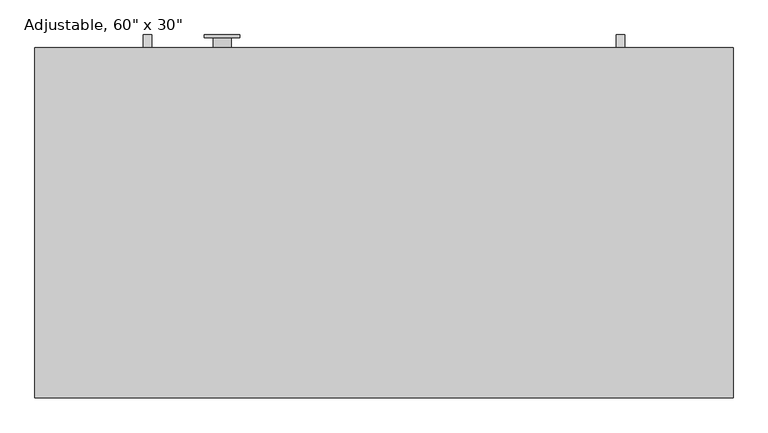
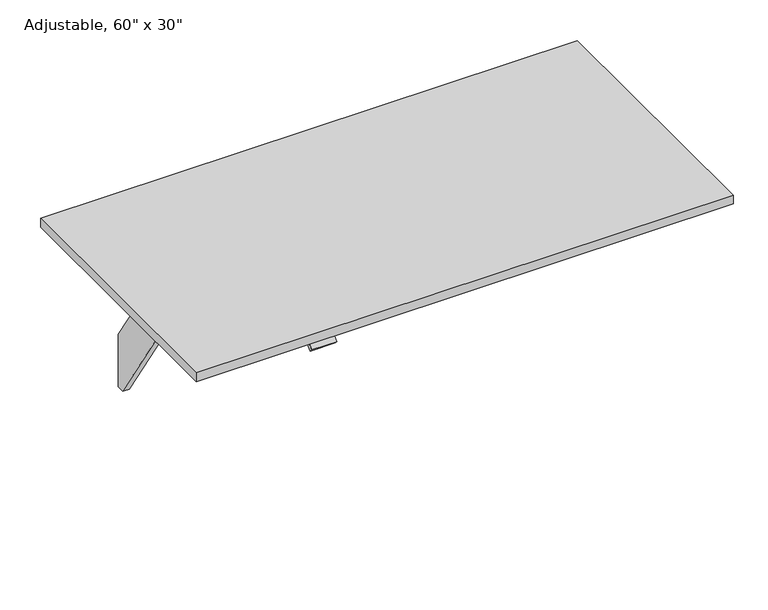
"""IFC4 building model written with IfcOpenShell, lengths in millimetres: furniture geometry."""

from ifc_helpers import new_model, si_unit, point, frame, frame_2d, origin, place, context, project, spatial, polyline, circle_curve, trimmed, segment, composite_curve, outline, extrude, source, transform, mapped, element, save
from ifc_brep_helpers import plane_surface, cylinder_surface, revolved_surface, advanced_brep


def furniture_abd386d2(model_context):
    return source(origin(), model_context, "Body", "SolidModel", [
        extrude(outline(polyline([(29.2199219, 153.5921541), (8.6276198, 153.5921541), (-345.3046137, 698.6), (-477.3090911, 698.6), (-485.7513898, 711.6), (-85.1019822, 711.6), (-93.5442809, 698.6), (-226.0682844, 698.6), (29.2199219, 305.4906355), (29.2199219, 153.5921541)])), frame((369.1244025, 0.0, 0.0), z_axis=(1.0, 0.0, 0.0), x_axis=(0.0, 1.0, 0.0)), (0.0, 0.0, 1.0), 18.0),
        extrude(outline(composite_curve([segment(polyline([(-733.1055966, 691.708916), (-717.7537239, 704.5906666)]), True, "CONTINUOUS"), segment(trimmed(circle_curve(frame_2d((-708.1119098, 693.1)), 15.0), [point((-717.7537239, 704.5906666))], [point((-708.1119098, 708.1))], False, "CARTESIAN"), True, "CONTINUOUS"), segment(polyline([(-708.1119098, 708.1), (-703.2331661, 708.1), (-703.2331661, 711.6), (-664.784231, 711.6), (-664.784231, 708.1), (-659.001686, 708.1), (-659.001686, 697.1), (-707.7479396, 697.1)]), True, "CONTINUOUS"), segment(trimmed(circle_curve(frame_2d((-707.7479396, 692.1)), 5.0), [point((-707.7479396, 697.1))], [point((-710.9618776, 695.9302222))], True, "CARTESIAN"), True, "CONTINUOUS"), segment(polyline([(-710.9618776, 695.9302222), (-726.0349329, 683.2824271), (-733.1055966, 691.708916)]), True, "CONTINUOUS")], self_intersect=False)), frame((-535.6329775, 0.0, 0.0), z_axis=(1.0, 0.0, 0.0), x_axis=(0.0, 1.0, 0.0)), (0.0, 0.0, 1.0), 68.58),
        advanced_brep(
        [(-439.7356275, -171.1428681, 364.5778173), (-439.7356275, -171.1428681, 711.6), (-439.7356275, -209.1312877, 711.6), (-439.7356275, -209.1312877, 700.4375), (-439.7356275, -193.3960503, 691.3527565), (-439.7356275, -190.4851047, 691.3527565), (-439.7356275, -190.4851047, 365.4712483), (-439.7356275, 18.612113, 365.4712483), (-439.7356275, 18.612113, 565.4962483), (-439.7356275, 23.285119, 565.4962483), (-439.7356275, 23.285119, 663.0278173), (-439.7356275, -0.6170974, 663.0278173), (-439.7356275, -0.6170974, 364.5778173), (-477.9356275, -171.1428681, 364.5778173), (-477.9356275, -0.6170974, 364.5778173), (-477.9356275, -0.6170974, 663.0278173), (-477.9356275, 23.285119, 663.0278173), (-477.9356275, 23.285119, 565.4962483), (-477.9356275, 18.612113, 565.4962483), (-477.9356275, 18.612113, 365.4712483), (-477.9356275, -190.4851047, 365.4712483), (-477.9356275, -190.4851047, 691.3527565), (-477.9356275, -193.3960503, 691.3527565), (-477.9356275, -209.1312877, 700.4375), (-477.9356275, -209.1312877, 711.6), (-477.9356275, -171.1428681, 711.6), (-496.4935537, 23.285119, 565.4962483), (-496.4935537, 29.2199219, 565.4962483), (-421.3564013, 29.2199219, 565.4962483), (-421.3564013, 23.285119, 565.4962483), (-496.4935537, 29.2199219, 678.865527), (-421.3564013, 29.2199219, 678.865527), (-496.4935537, 23.285119, 678.865527), (-421.3564013, 23.285119, 678.865527)],
        [
            (0, 1),
            (1, 2),
            (2, 3),
            (3, 4),
            (4, 5),
            (5, 6),
            (6, 7, circle_curve(frame((-439.7356275, -85.9364959, 365.4712483), z_axis=(1.0, 0.0, 0.0), x_axis=(0.0, 0.0, 1.0)), 104.5486088)),
            (7, 8),
            (8, 9),
            (9, 10),
            (10, 11),
            (11, 12),
            (12, 0, circle_curve(frame((-439.7356275, -85.8799828, 364.5778173), z_axis=(-1.0, 0.0, 0.0), x_axis=(0.0, 0.0, 1.0)), 85.2628854)),
            (13, 14, circle_curve(frame((-477.9356275, -85.8799828, 364.5778173), z_axis=(1.0, 0.0, 0.0), x_axis=(0.0, 0.0, 1.0)), 85.2628854)),
            (14, 15),
            (15, 16),
            (16, 17),
            (17, 18),
            (18, 19),
            (19, 20, circle_curve(frame((-477.9356275, -85.9364959, 365.4712483), z_axis=(-1.0, 0.0, 0.0), x_axis=(0.0, 0.0, 1.0)), 104.5486088)),
            (20, 21),
            (21, 22),
            (22, 23),
            (23, 24),
            (24, 25),
            (25, 13),
            (0, 13),
            (25, 1),
            (24, 2),
            (23, 3),
            (22, 4),
            (21, 5),
            (20, 6),
            (19, 7),
            (18, 8),
            (17, 26),
            (26, 27),
            (27, 28),
            (28, 29),
            (29, 9),
            (27, 30),
            (30, 31),
            (31, 28),
            (30, 32),
            (32, 33),
            (33, 31),
            (32, 26),
            (16, 10),
            (29, 33),
            (15, 11),
            (14, 12),
        ],
        [
            plane_surface(frame((-439.7356275, 29.2199219, 736.6), z_axis=(1.0, 0.0, 0.0), x_axis=(0.0, 1.0, 0.0))),
            plane_surface(frame((-477.9356275, 29.2199219, 736.6), z_axis=(-1.0, 0.0, 0.0), x_axis=(0.0, 1.0, 0.0))),
            plane_surface(frame((-439.7356275, -171.1428681, 364.5778173), z_axis=(0.0, 1.0, 0.0), x_axis=(-1.0, 0.0, 0.0))),
            plane_surface(frame((-439.7356275, -171.1428681, 711.6), z_axis=(0.0, 0.0, 1.0), x_axis=(-1.0, 0.0, 0.0))),
            plane_surface(frame((-439.7356275, -209.1312877, 711.6), z_axis=(0.0, -1.0, 0.0), x_axis=(-1.0, 0.0, 0.0))),
            plane_surface(frame((-439.7356275, -209.1312877, 700.4375), z_axis=(0.0, -0.4999999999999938, -0.8660254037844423), x_axis=(-1.0, 0.0, 0.0))),
            plane_surface(frame((-439.7356275, -193.3960503, 691.3527565), z_axis=(0.0, 0.0, -1.0), x_axis=(-1.0, 0.0, 0.0))),
            plane_surface(frame((-439.7356275, -190.4851047, 691.3527565), z_axis=(0.0, -1.0, 0.0), x_axis=(-1.0, 0.0, 0.0))),
            cylinder_surface(frame((-439.7356275, -85.9364959, 365.4712483), z_axis=(1.0, 0.0, 0.0), x_axis=(0.0, 0.0, 1.0)), 104.5486088),
            plane_surface(frame((-439.7356275, 18.612113, 365.4712483), z_axis=(0.0, 1.0, 0.0), x_axis=(-1.0, 0.0, 0.0))),
            plane_surface(frame((-439.7356275, 18.612113, 565.4962483), z_axis=(0.0, 0.0, -1.0), x_axis=(-1.0, 0.0, 0.0))),
            plane_surface(frame((-439.7356275, 29.2199219, 565.4962483), z_axis=(0.0, 1.0, 0.0), x_axis=(-1.0, 0.0, 0.0))),
            plane_surface(frame((-439.7356275, 29.2199219, 678.865527), z_axis=(0.0, 0.0, 1.0), x_axis=(-1.0, 0.0, 0.0))),
            plane_surface(frame((-439.7356275, 23.285119, 678.865527), z_axis=(0.0, -1.0, 0.0), x_axis=(-1.0, 0.0, 0.0))),
            plane_surface(frame((-439.7356275, 23.285119, 663.0278173), z_axis=(0.0, 0.0, 1.0), x_axis=(-1.0, 0.0, 0.0))),
            plane_surface(frame((-439.7356275, -0.6170974, 663.0278173), z_axis=(0.0, -1.0, 0.0), x_axis=(-1.0, 0.0, 0.0))),
            revolved_surface(polyline([(-477.9356275, -85.8799828, 449.8407027), (-439.7356275, -85.8799828, 449.8407027)]), (-439.7356275, -85.8799828, 364.5778173), (-1.0, 0.0, 0.0)),
            plane_surface(frame((-496.4935537, 29.2199219, 565.4962483), z_axis=(-1.0, 0.0, 0.0), x_axis=(0.0, -1.0, 0.0))),
            plane_surface(frame((-421.3564013, 29.2199219, 678.865527), z_axis=(1.0, 0.0, 0.0), x_axis=(0.0, -1.0, 0.0))),
        ],
        [
            (0, [[1, 2, 3, 4, 5, 6, 7, 8, 9, 10, 11, 12, 13]]),
            (1, [[14, 15, 16, 17, 18, 19, 20, 21, 22, 23, 24, 25, 26]]),
            (2, [[-1, 27, -26, 28]]),
            (3, [[-2, -28, -25, 29]]),
            (4, [[-3, -29, -24, 30]]),
            (5, [[-4, -30, -23, 31]]),
            (6, [[-5, -31, -22, 32]]),
            (7, [[-6, -32, -21, 33]]),
            (8, [[-7, -33, -20, 34]]),
            (9, [[-8, -34, -19, 35]]),
            (10, [[-35, -18, 36, 37, 38, 39, 40, -9]]),
            (11, [[-38, 41, 42, 43]]),
            (12, [[-42, 44, 45, 46]]),
            (13, [[-45, 47, -36, -17, 48, -10, -40, 49]]),
            (14, [[-11, -48, -16, 50]]),
            (15, [[-12, -50, -15, 51]]),
            (16, [[-13, -51, -14, -27]]),
            (17, [[-41, -37, -47, -44]]),
            (18, [[-43, -46, -49, -39]]),
        ],
    ),
        extrude(outline(polyline([(-212.0399277, 636.99764), (-222.7921538, 653.5546163), (-221.9144617, 654.4323085), (-209.8037968, 635.78352), (-304.5111146, 635.78352), (-348.0214234, 702.78352), (-365.36221, 702.78352), (-365.36221, 703.99764), (-347.36221, 703.99764), (-303.8519012, 636.99764), (-212.0399277, 636.99764)])), frame((-606.6429775, 0.0, 0.0), z_axis=(1.0, 0.0, 0.0), x_axis=(0.0, 1.0, 0.0)), (0.0, 0.0, 1.0), 975.76738),
        extrude(outline(polyline([(29.2199219, 153.5921541), (8.6276198, 153.5921541), (-345.3046137, 698.6), (-477.3090911, 698.6), (-485.7513898, 711.6), (-85.1019822, 711.6), (-93.5442809, 698.6), (-226.0682844, 698.6), (29.2199219, 305.4906355), (29.2199219, 153.5921541)])), frame((-624.6429775, 0.0, 0.0), z_axis=(1.0, 0.0, 0.0), x_axis=(0.0, 1.0, 0.0)), (0.0, 0.0, 1.0), 18.0),
        extrude(outline(polyline([(-852.1842875, -734.501686), (-852.1842875, 2.098314), (614.6657125, 2.098314), (614.6657125, -734.501686), (-852.1842875, -734.501686)])), frame((0.0, 0.0, 711.6), z_axis=(0.0, 0.0, 1.0), x_axis=(1.0, 0.0, 0.0)), (0.0, 0.0, 1.0), 25.0),
    ])


if __name__ == "__main__":
    model = new_model("IFC4")
    model_context = context("Model", 3, world=origin())
    ifc_project = project(units=[si_unit("LENGTHUNIT", "METRE", prefix="MILLI")], contexts=[model_context])
    site = spatial("IfcSite", under=ifc_project)
    building = spatial("IfcBuilding", under=site)
    placement = place(None, origin())
    furniture_shape = furniture_abd386d2(model_context)
    element("IfcFurniture", 1, ObjectType="Furniture-Desk-Teknion-Altos_Landscape-R2015 : Adjustable, 60\" x 30\"", at=placement, inside=building, context=model_context, shape_type="MappedRepresentation", body=[
        mapped(furniture_shape, transform((0.0, 0.0, 0.0), x_axis=(1.0, 0.0, 0.0), y_axis=(0.0, 1.0, 0.0), z_axis=(0.0, 0.0, 1.0))),
    ])
    save(model, "model.ifc")
